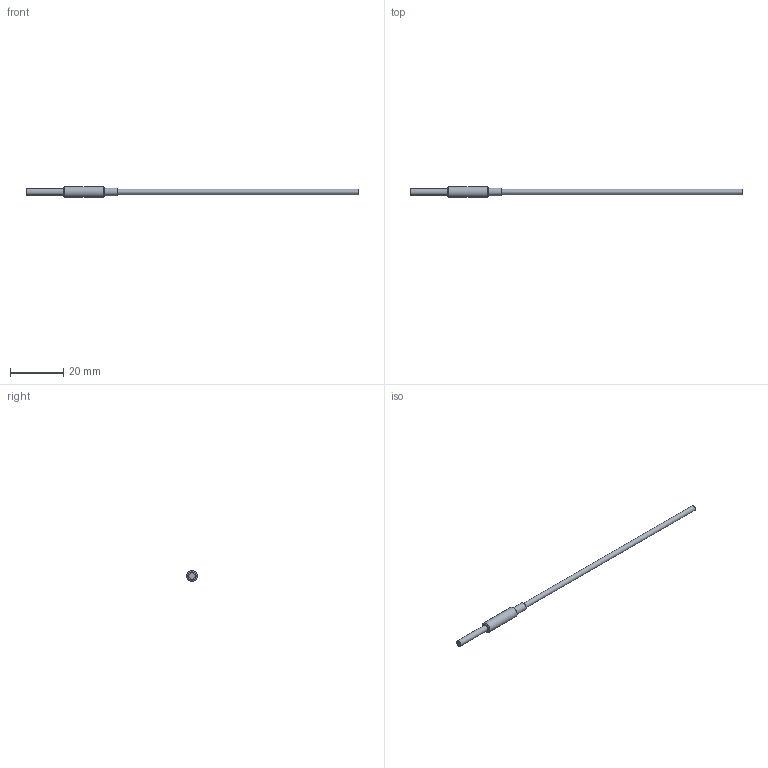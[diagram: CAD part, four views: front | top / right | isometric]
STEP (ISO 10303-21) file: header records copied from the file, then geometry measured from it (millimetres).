
FILE_DESCRIPTION(/* description */ ('STEP AP203'),/* implementation_level */ '2;1');
FILE_NAME(/* name */ 'P_MZ_FO_0119_G',/* time_stamp */ '2023-03-03T13:06:13+01:00',/* author */ ('License CC BY-ND 4.0'),/* organization */ ('CADENAS'),/* preprocessor_version */ 'ST-DEVELOPER v18.102',/* originating_system */ 'PARTsolutions',/* authorisation */ ' ');
FILE_SCHEMA (('CONFIG_CONTROL_DESIGN'));
Length unit declared in the file: millimetre
Products named in the file (1): P_MZ_FO_0119_G
Bounding box: 124.2 x 4 x 4 mm (x, y, z)
Volume: 561.8 mm3; surface area: 921.9 mm2
Topology: 1 solids, 1 shells, 11 faces, 16 edges, 10 vertices
Faces by surface type: plane 5, cylinder 4, cone 2
Full cylindrical faces by diameter (mm): 2 x1, 2.3 x1, 2.9 x1, 4 x1
Entity records: 315 total; most frequent: DIRECTION 44, CARTESIAN_POINT 32, AXIS2_PLACEMENT_3D 22, ORIENTED_EDGE 20, EDGE_LOOP 20, FACE_BOUND 20, STYLED_ITEM 11, PRESENTATION_STYLE_ASSIGNMENT 11
